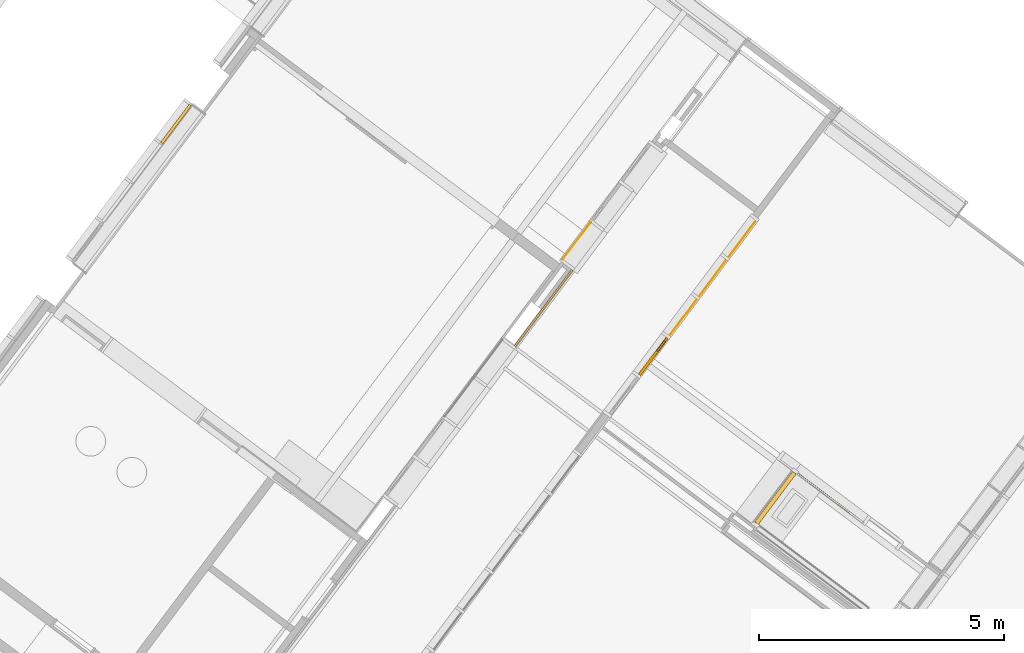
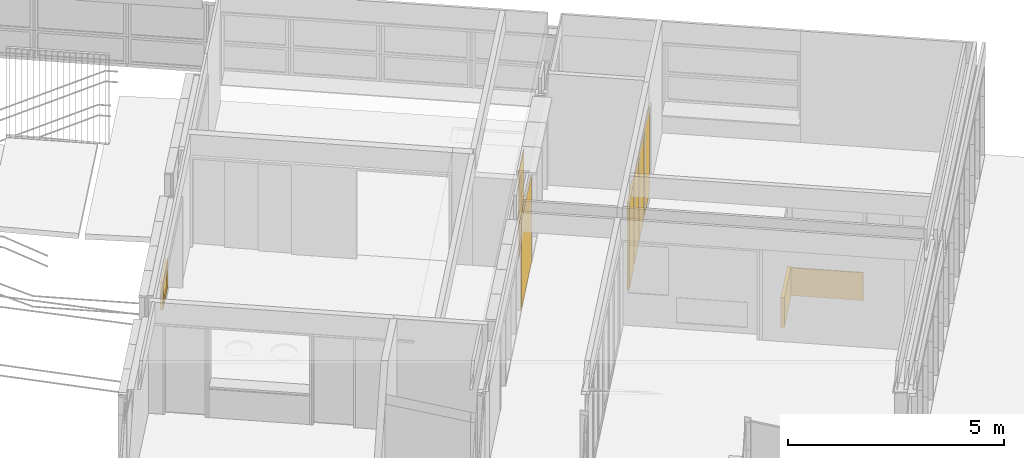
# One storey, part 170 of 243: 6 windows, 3 curtain walls, 6 elements without a shape of their own.
"""IFC2X3 building model written with IfcOpenShell, lengths in metres."""

from ifc_helpers import new_model, entity, si_unit, converted_unit, derived_unit, direction, frame, frame_2d, origin, origin_2d_with_axis, place, context, subcontext, project, spatial, rectangle, extrude, faceted_brep, source, transform, mapped, material, material_list, layer, layer_set, layer_usage, type_object, type_shapes, element, aggregate, save


model = new_model("IFC2X3")

# Units and contexts
model_context = context("Model", 3, precision=1e-05, world=origin(), true_north=direction((6.123031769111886e-17, 1.0)))
body_context = subcontext(model_context, "Body", "Model", "MODEL_VIEW")
ifc_project = project(units=[si_unit("LENGTHUNIT", "METRE"), si_unit("AREAUNIT", "SQUARE_METRE"), si_unit("VOLUMEUNIT", "CUBIC_METRE"), converted_unit("PLANEANGLEUNIT", "DEGREE", entity("IfcRatioMeasure", 0.017453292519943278), si_unit("PLANEANGLEUNIT", "RADIAN"), dimensions=[0, 0, 0, 0, 0, 0, 0]), si_unit("MASSUNIT", "GRAM", prefix="KILO"), derived_unit("MASSDENSITYUNIT", [(si_unit("MASSUNIT", "GRAM", prefix="KILO"), 1), (si_unit("LENGTHUNIT", "METRE"), -3)]), derived_unit("IONCONCENTRATIONUNIT", [(si_unit("MASSUNIT", "GRAM", prefix="KILO"), 1), (si_unit("LENGTHUNIT", "METRE"), -3)]), derived_unit("MOMENTOFINERTIAUNIT", [(si_unit("LENGTHUNIT", "METRE"), 4)]), si_unit("TIMEUNIT", "SECOND"), si_unit("FREQUENCYUNIT", "HERTZ"), si_unit("THERMODYNAMICTEMPERATUREUNIT", "DEGREE_CELSIUS"), derived_unit("THERMALTRANSMITTANCEUNIT", [(si_unit("MASSUNIT", "GRAM", prefix="KILO"), 1), (si_unit("THERMODYNAMICTEMPERATUREUNIT", "KELVIN"), -1), (si_unit("TIMEUNIT", "SECOND"), -3)]), derived_unit("THERMALCONDUCTANCEUNIT", [(si_unit("MASSUNIT", "GRAM", prefix="KILO"), 1), (si_unit("THERMODYNAMICTEMPERATUREUNIT", "KELVIN"), -1), (si_unit("TIMEUNIT", "SECOND"), -3), (si_unit("LENGTHUNIT", "METRE"), 1)]), derived_unit("VOLUMETRICFLOWRATEUNIT", [(si_unit("LENGTHUNIT", "METRE"), 3), (si_unit("TIMEUNIT", "SECOND"), -1)]), derived_unit("MASSFLOWRATEUNIT", [(si_unit("MASSUNIT", "GRAM", prefix="KILO"), 1), (si_unit("TIMEUNIT", "SECOND"), -1)]), derived_unit("ROTATIONALFREQUENCYUNIT", [(si_unit("TIMEUNIT", "SECOND"), -1)]), si_unit("ELECTRICCURRENTUNIT", "AMPERE"), si_unit("ELECTRICVOLTAGEUNIT", "VOLT"), si_unit("POWERUNIT", "WATT"), si_unit("FORCEUNIT", "NEWTON", prefix="KILO"), si_unit("ILLUMINANCEUNIT", "LUX"), si_unit("LUMINOUSFLUXUNIT", "LUMEN"), si_unit("LUMINOUSINTENSITYUNIT", "CANDELA"), derived_unit("USERDEFINED", [(si_unit("MASSUNIT", "GRAM", prefix="KILO"), -1), (si_unit("LENGTHUNIT", "METRE"), -2), (si_unit("TIMEUNIT", "SECOND"), 3), (si_unit("LUMINOUSFLUXUNIT", "LUMEN"), 1)]), derived_unit("USERDEFINED", [(si_unit("MASSUNIT", "GRAM", prefix="KILO"), 1), (si_unit("TIMEUNIT", "SECOND"), -3), (si_unit("LENGTHUNIT", "METRE"), 3), (si_unit("ELECTRICCURRENTUNIT", "AMPERE"), -2)]), derived_unit("SOUNDPOWERUNIT", [(si_unit("MASSUNIT", "GRAM", prefix="KILO"), 1), (si_unit("TIMEUNIT", "SECOND"), -3), (si_unit("LENGTHUNIT", "METRE"), 2)]), derived_unit("SOUNDPRESSUREUNIT", [(si_unit("MASSUNIT", "GRAM", prefix="KILO"), 1), (si_unit("LENGTHUNIT", "METRE"), -1), (si_unit("TIMEUNIT", "SECOND"), -2)]), derived_unit("LINEARVELOCITYUNIT", [(si_unit("LENGTHUNIT", "METRE"), 1), (si_unit("TIMEUNIT", "SECOND"), -1)]), si_unit("PRESSUREUNIT", "PASCAL"), derived_unit("USERDEFINED", [(si_unit("MASSUNIT", "GRAM", prefix="KILO"), 1), (si_unit("LENGTHUNIT", "METRE"), -2), (si_unit("TIMEUNIT", "SECOND"), -2)]), derived_unit("LINEARFORCEUNIT", [(si_unit("MASSUNIT", "GRAM", prefix="KILO"), 1), (si_unit("TIMEUNIT", "SECOND"), -2)]), derived_unit("PLANARFORCEUNIT", [(si_unit("MASSUNIT", "GRAM", prefix="KILO"), 1), (si_unit("LENGTHUNIT", "METRE"), -1), (si_unit("TIMEUNIT", "SECOND"), -2)]), derived_unit("SPECIFICHEATCAPACITYUNIT", [(si_unit("THERMODYNAMICTEMPERATUREUNIT", "KELVIN"), -1), (si_unit("LENGTHUNIT", "METRE"), 2), (si_unit("TIMEUNIT", "SECOND"), -2)]), derived_unit("HEATINGVALUEUNIT", [(si_unit("LENGTHUNIT", "METRE"), 2), (si_unit("TIMEUNIT", "SECOND"), -2)]), derived_unit("VAPORPERMEABILITYUNIT", [(si_unit("LENGTHUNIT", "METRE"), -1), (si_unit("TIMEUNIT", "SECOND"), 1)]), derived_unit("DYNAMICVISCOSITYUNIT", [(si_unit("MASSUNIT", "GRAM", prefix="KILO"), 1), (si_unit("TIMEUNIT", "SECOND"), -1), (si_unit("LENGTHUNIT", "METRE"), -1)]), derived_unit("THERMALEXPANSIONCOEFFICIENTUNIT", [(si_unit("THERMODYNAMICTEMPERATUREUNIT", "KELVIN"), -1)]), derived_unit("MODULUSOFELASTICITYUNIT", [(si_unit("MASSUNIT", "GRAM", prefix="KILO"), 1), (si_unit("LENGTHUNIT", "METRE"), -1), (si_unit("TIMEUNIT", "SECOND"), -2)]), derived_unit("ISOTHERMALMOISTURECAPACITYUNIT", [(si_unit("LENGTHUNIT", "METRE"), 3), (si_unit("MASSUNIT", "GRAM", prefix="KILO"), -1)]), derived_unit("MOISTUREDIFFUSIVITYUNIT", [(si_unit("TIMEUNIT", "SECOND"), -1), (si_unit("LENGTHUNIT", "METRE"), 2)])], contexts=[model_context])

# Site, building, storey
site_placement = place(None, frame((0.0, 0.0, 235.0), z_axis=(0.0, 0.0, 1.0), x_axis=(-0.7996477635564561, 0.6004693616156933, 0.0)))
site = spatial("IfcSite", under=ifc_project, at=site_placement, Name="Default", CompositionType="ELEMENT")
building_placement = place(site_placement, origin())
building = spatial("IfcBuilding", under=site, at=building_placement, CompositionType="ELEMENT")
storey_placement = place(building_placement, origin())
storey = spatial("IfcBuildingStorey", under=building, at=storey_placement, Name="P0- Escola", CompositionType="ELEMENT", Elevation=0.0)

# Curtain wall, window
curtain_wall_type_1 = type_object("IfcCurtainWallType", Name="Muro cortina:MC- INT- a4", PredefinedType="NOTDEFINED")
curtain_wall_1_placement = place(storey_placement, origin())
curtain_wall_1 = element("IfcCurtainWall", 1, at=curtain_wall_1_placement, inside=storey, type_object=curtain_wall_type_1, Name="Muro cortina:MC- INT- a4", ObjectType="Muro cortina:MC- INT- a4")
ifc_material_1 = material(Name="_Vidre")
window_style_1 = type_object("IfcWindowStyle", Name="MC- Fusta- vidre fix:MC- Fusta- vidre fix", ConstructionType="NOTDEFINED", OperationType="NOTDEFINED", ParameterTakesPrecedence=False, Sizeable=False, material=ifc_material_1)
shared_shape_1 = source(origin(), body_context, "Body", "SweptSolid", [
    extrude(rectangle(XDim=0.015999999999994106, YDim=0.9674999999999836, at=origin_2d_with_axis()), frame((0.0, 0.0, 0.0), z_axis=(0.0, 0.0, 1.0), x_axis=(0.0, -1.0, 0.0)), (0.0, 0.0, 1.0), 2.46),
])
type_shapes(window_style_1, [shared_shape_1])
window_1_placement = place(curtain_wall_1_placement, frame((15.955147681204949, -36.91644175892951, 0.045), z_axis=(0.0, 0.0, 1.0), x_axis=(0.0, 1.0, 0.0)))
window_1 = element("IfcWindow", 2, at=window_1_placement, type_object=window_style_1, material=ifc_material_1, Name="MC- Fusta- vidre fix:MC- Fusta- vidre fix", ObjectType="MC- Fusta- vidre fix:MC- Fusta- vidre fix", OverallHeight=2.46, OverallWidth=0.9674999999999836, context=body_context, shape_type="MappedRepresentation", body=[
    mapped(shared_shape_1, transform((0.0, 0.0, 0.0), scale=1.0)),
])
aggregate(curtain_wall_1, [window_1])

# Curtain wall, windows
curtain_wall_type_2 = type_object("IfcCurtainWallType", Name="Muro cortina:MC- INT- a3", PredefinedType="NOTDEFINED")
curtain_wall_2_placement = place(storey_placement, origin())
curtain_wall_2 = element("IfcCurtainWall", 3, at=curtain_wall_2_placement, inside=storey, type_object=curtain_wall_type_2, Name="Muro cortina:MC- INT- a3", ObjectType="Muro cortina:MC- INT- a3")
window_style_2 = type_object("IfcWindowStyle", Name="MC- Fusta- vidre fix:MC- Fusta- vidre fix", ConstructionType="NOTDEFINED", OperationType="NOTDEFINED", ParameterTakesPrecedence=False, Sizeable=False, material=ifc_material_1)
shared_shape_2 = source(origin(), body_context, "Body", "SweptSolid", [
    extrude(rectangle(XDim=0.9550000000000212, YDim=0.015999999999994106, at=origin_2d_with_axis()), frame((0.0, 0.0, 0.0), z_axis=(0.0, 0.0, 1.0), x_axis=(-1.0, 0.0, 0.0)), (0.0, 0.0, 1.0), 2.475),
])
type_shapes(window_style_2, [shared_shape_2])
window_2_placement = place(curtain_wall_2_placement, frame((13.279147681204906, -38.96269175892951, 0.045000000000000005), z_axis=(0.0, 0.0, 1.0), x_axis=(0.0, -1.0, 0.0)))
window_2 = element("IfcWindow", 4, at=window_2_placement, type_object=window_style_2, material=ifc_material_1, Name="MC- Fusta- vidre fix:MC- Fusta- vidre fix", ObjectType="MC- Fusta- vidre fix:MC- Fusta- vidre fix", OverallHeight=2.475, OverallWidth=0.9550000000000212, context=body_context, shape_type="MappedRepresentation", body=[
    mapped(shared_shape_2, transform((0.0, 0.0, 0.0), scale=1.0)),
])
window_style_3 = type_object("IfcWindowStyle", Name="MC- Fusta- vidre fix:MC- Fusta- vidre fix", ConstructionType="NOTDEFINED", OperationType="NOTDEFINED", ParameterTakesPrecedence=False, Sizeable=False, material=ifc_material_1)
shared_shape_3 = source(origin(), body_context, "Body", "SweptSolid", [
    extrude(rectangle(XDim=0.015999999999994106, YDim=0.9699999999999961, at=origin_2d_with_axis()), frame((0.0, 0.0, 0.0), z_axis=(0.0, 0.0, 1.0), x_axis=(0.0, -1.0, 0.0)), (0.0, 0.0, 1.0), 2.475),
])
type_shapes(window_style_3, [shared_shape_3])
window_3_placement = place(curtain_wall_2_placement, frame((13.279147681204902, -37.9701917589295, 0.045000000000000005), z_axis=(0.0, 0.0, 1.0), x_axis=(0.0, -1.0, 0.0)))
window_3 = element("IfcWindow", 5, at=window_3_placement, type_object=window_style_3, material=ifc_material_1, Name="MC- Fusta- vidre fix:MC- Fusta- vidre fix", ObjectType="MC- Fusta- vidre fix:MC- Fusta- vidre fix", OverallHeight=2.475, OverallWidth=0.9699999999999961, context=body_context, shape_type="MappedRepresentation", body=[
    mapped(shared_shape_3, transform((0.0, 0.0, 0.0), scale=1.0)),
])
window_4_placement = place(curtain_wall_2_placement, frame((13.279147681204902, -36.9701917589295, 0.045000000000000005), z_axis=(0.0, 0.0, 1.0), x_axis=(0.0, -1.0, 0.0)))
window_4 = element("IfcWindow", 6, at=window_4_placement, type_object=window_style_3, material=ifc_material_1, Name="MC- Fusta- vidre fix:MC- Fusta- vidre fix", ObjectType="MC- Fusta- vidre fix:MC- Fusta- vidre fix", OverallHeight=2.475, OverallWidth=0.9699999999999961, context=body_context, shape_type="MappedRepresentation", body=[
    mapped(shared_shape_3, transform((0.0, 0.0, 0.0), scale=1.0)),
])
ifc_material_2 = material(Name="_Fusta massisa- T1-  REV- PAV")
window_style_4 = type_object("IfcWindowStyle", Name="MC- Fusta- Finestra ventilacio interior:MC- Fusta- Finestra ventilacio interior", ConstructionType="NOTDEFINED", OperationType="NOTDEFINED", ParameterTakesPrecedence=False, Sizeable=False, material=ifc_material_2)
shared_shape_4 = source(origin(), body_context, "Body", "Brep", [
    faceted_brep([(0.3930000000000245, 0.025000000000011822, 2.382999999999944), (0.13200000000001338, 0.0250000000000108, 2.3829999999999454), (0.13200000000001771, 0.025000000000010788, 1.0449999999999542), (0.3930000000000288, 0.025000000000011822, 1.0449999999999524), (0.13200000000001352, -0.004999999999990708, 2.3829999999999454), (0.13200000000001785, -0.004999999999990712, 1.0449999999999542), (0.3930000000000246, -0.004999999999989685, 2.382999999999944), (0.393000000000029, -0.00499999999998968, 1.0449999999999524), (0.08700000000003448, 0.04000000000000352, 2.427999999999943), (0.08700000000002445, 0.04000000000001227, 1.0), (0.08700000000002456, 0.01000000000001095, 1.0), (0.0870000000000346, 0.01000000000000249, 2.427999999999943), (0.4380000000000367, 0.010000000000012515, 1.0), (0.4380000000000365, 0.04000000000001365, 1.0), (0.43800000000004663, 0.0400000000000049, 2.427999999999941), (0.4380000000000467, 0.010000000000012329, 2.428000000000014), (0.07200000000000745, 0.009999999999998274, 0.9850000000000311), (0.07200000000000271, 0.010000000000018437, 2.44300000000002), (0.4530000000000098, 0.010000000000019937, 2.4430000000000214), (0.4530000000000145, 0.009999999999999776, 0.9850000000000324), (0.07200000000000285, -0.019999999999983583, 2.443000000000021), (0.07200000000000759, -0.020000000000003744, 0.9850000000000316), (0.45300000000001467, -0.02000000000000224, 0.985000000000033), (0.4530000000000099, -0.019999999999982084, 2.443000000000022)], [[[0, 1, 2, 3]], [[1, 4, 5, 2]], [[4, 6, 7, 5]], [[3, 7, 6, 0]], [[8, 9, 10, 11]], [[12, 13, 14, 15]], [[15, 14, 8, 11]], [[8, 14, 13, 9]], [[0, 6, 4, 1]], [[2, 5, 7, 3]], [[9, 13, 12, 10]], [[11, 10, 12, 15], [16, 17, 18, 19]], [[20, 21, 22, 23]], [[20, 23, 18, 17]], [[16, 21, 20, 17]], [[18, 23, 22, 19]], [[16, 19, 22, 21]]], outer=[[True], [True], [True], [True], [True], [True], [True], [True], [True], [True], [True], [False, True], [True], [True], [True], [True], [True]]),
    faceted_brep([(0.45500000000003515, -0.019999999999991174, 0.9850000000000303), (0.07000000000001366, -0.019999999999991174, 0.9850000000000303), (0.07000000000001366, -0.019999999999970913, 2.4449999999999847), (0.45500000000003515, -0.01999999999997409, 2.444999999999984), (-0.46500000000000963, -0.019999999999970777, 2.4549999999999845), (-0.4650000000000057, -0.020000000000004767, 0.005000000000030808), (0.46500000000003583, -0.020000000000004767, 0.00499999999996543), (0.46500000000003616, -0.019999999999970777, 2.4549999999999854), (0.4650000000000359, -0.01599999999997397, 2.454999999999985), (0.4650000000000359, -0.01600000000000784, 0.00499999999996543), (-0.46500000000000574, -0.01600000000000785, 0.005000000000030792), (0.47000000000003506, -0.015999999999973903, 2.459999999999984), (-0.47000000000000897, -0.015999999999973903, 2.459999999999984), (-0.4700000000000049, -0.016000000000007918, 0.0), (0.47000000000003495, -0.016000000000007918, 0.0), (-0.46500000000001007, -0.01599999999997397, 2.455000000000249), (-0.46500000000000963, 0.03600000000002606, 2.454999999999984), (-0.4650000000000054, 0.03599999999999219, 0.005000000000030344), (0.4650000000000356, 0.03599999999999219, 0.00499999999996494), (0.46500000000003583, 0.03600000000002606, 2.454999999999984), (-0.47000000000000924, 0.036000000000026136, 2.459999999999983), (0.470000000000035, 0.036000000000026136, 2.459999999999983), (0.46999999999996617, 0.03599999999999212, 0.0), (-0.4700000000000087, 0.03599999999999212, 0.0), (-0.46500000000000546, 0.03999999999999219, 0.005000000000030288), (0.46500000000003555, 0.03999999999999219, 0.005000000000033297), (0.08500000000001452, 0.040000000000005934, 1.0), (0.4400000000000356, 0.04000000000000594, 1.0), (0.4400000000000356, 0.040000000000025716, 2.4299999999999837), (0.08500000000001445, 0.040000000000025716, 2.4299999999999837), (-0.46500000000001, 0.040000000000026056, 2.4550000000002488), (0.4650000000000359, 0.040000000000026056, 2.454999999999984), (0.45500000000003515, 0.010000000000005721, 0.9850000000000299), (0.4550000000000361, 0.010000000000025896, 2.4449999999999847), (0.08500000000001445, 0.0100000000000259, 2.444999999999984), (0.07000000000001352, 0.010000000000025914, 2.444999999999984), (0.07000000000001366, 0.010000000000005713, 0.9850000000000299), (0.08500000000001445, 0.010000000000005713, 0.9850000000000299), (0.4400000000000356, 0.01000000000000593, 1.0), (0.08500000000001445, 0.010000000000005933, 1.0), (0.08500000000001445, 0.010000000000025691, 2.4299999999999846), (0.4400000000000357, 0.010000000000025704, 2.429999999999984)], [[[0, 1, 2, 3], [4, 5, 6, 7]], [[8, 7, 6, 9]], [[5, 10, 9, 6]], [[11, 12, 13, 14], [10, 15, 8, 9]], [[16, 17, 18, 19], [20, 21, 22, 23]], [[17, 24, 25, 18]], [[26, 27, 28, 29], [24, 30, 31, 25]], [[32, 33, 34, 35, 36, 37], [38, 39, 40, 41]], [[26, 39, 38, 27]], [[39, 26, 29, 40]], [[41, 28, 27, 38]], [[3, 33, 32, 0]], [[1, 36, 35, 2]], [[36, 1, 0, 32, 37]], [[4, 15, 10, 5]], [[16, 30, 24, 17]], [[12, 20, 23, 13]], [[13, 23, 22, 14]], [[21, 11, 14, 22]], [[7, 8, 15, 4]], [[11, 21, 20, 12]], [[33, 3, 2, 35, 34]], [[28, 41, 40, 29]], [[19, 31, 30, 16]], [[31, 19, 18, 25]]], outer=[[False, True], [True], [True], [True, False], [False, True], [True], [False, True], [True, False], [True], [True], [True], [True], [True], [True], [True], [True], [True], [True], [True], [True], [True], [True], [True], [True], [True]]),
])
type_shapes(window_style_4, [shared_shape_4])
window_5_placement = place(curtain_wall_2_placement, frame((13.2791476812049, -35.9701917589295, 0.059999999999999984), z_axis=(0.0, 0.0, 1.0), x_axis=(0.0, -1.0, 0.0)))
window_5 = element("IfcWindow", 7, at=window_5_placement, type_object=window_style_4, material=ifc_material_2, Name="MC- Fusta- Finestra ventilacio interior:MC- Fusta- Finestra ventilacio interior", ObjectType="MC- Fusta- Finestra ventilacio interior:MC- Fusta- Finestra ventilacio interior", OverallHeight=2.460000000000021, OverallWidth=0.9400000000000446, context=body_context, shape_type="MappedRepresentation", body=[
    mapped(shared_shape_4, transform((0.0, 0.0, 0.0), scale=1.0)),
])
aggregate(curtain_wall_2, [window_2, window_3, window_4, window_5])

# Curtain walls
curtain_wall_type_3 = type_object("IfcCurtainWallType", Name="Muro cortina:MC- INT- a4- 5cm", PredefinedType="NOTDEFINED")
curtain_wall_3_placement = place(storey_placement, origin())
curtain_wall_3 = element("IfcCurtainWall", 8, at=curtain_wall_3_placement, inside=storey, type_object=curtain_wall_type_3, Name="Muro cortina:MC- INT- a4- 5cm", ObjectType="Muro cortina:MC- INT- a4- 5cm")
ifc_layer_1 = layer(ifc_material_2, 0.015)
ifc_material_3 = material(Name="_Genèric perfils, muntants, rastrells")
ifc_layer_2 = layer(ifc_material_3, 0.02)
ifc_layer_set_1 = layer_set([ifc_layer_1, ifc_layer_2], Name="Muro básico:REV- Fusta- T1- 3,5 cm")
ifc_layer_usage_1 = layer_usage(ifc_layer_set_1, "AXIS2", "POSITIVE", -0.0175)
curtain_wall_type_4 = type_object("IfcCurtainWallType", Name="Muro básico:REV- Fusta- T1- 3,5 cm", PredefinedType="NOTDEFINED", material=ifc_layer_set_1)
curtain_wall_4_placement = place(storey_placement, frame((15.670147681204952, -34.44269085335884, 0.0), z_axis=(0.0, 0.0, 1.0), x_axis=(0.0, -1.0, 0.0)))
curtain_wall_4 = element("IfcCurtainWall", 9, at=curtain_wall_4_placement, type_object=curtain_wall_type_4, material=ifc_layer_usage_1, Name="Muro básico:REV- Fusta- T1- 3,5 cm", ObjectType="Muro básico:REV- Fusta- T1- 3,5 cm", context=body_context, shape_type="SweptSolid", body=[
    extrude(rectangle(XDim=0.03500000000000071, YDim=1.9450009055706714, at=frame_2d((-1.0842021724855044e-15, 0.0), x_axis=(1.0, 0.0))), frame((0.9725004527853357, 0.0, 0.0), z_axis=(0.0, 0.0, 1.0), x_axis=(0.0, 1.0, 0.0)), (0.0, 0.0, 1.0), 2.5050000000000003),
])
aggregate(curtain_wall_3, [curtain_wall_4])

curtain_wall_type_5 = type_object("IfcCurtainWallType", Name="Muro cortina:MC- INT- k1", PredefinedType="NOTDEFINED")
curtain_wall_5_placement = place(storey_placement, origin())
curtain_wall_5 = element("IfcCurtainWall", 10, at=curtain_wall_5_placement, inside=storey, type_object=curtain_wall_type_5, Name="Muro cortina:MC- INT- k1", ObjectType="Muro cortina:MC- INT- k1")
ifc_layer_usage_2 = layer_usage(ifc_layer_set_1, "AXIS2", "NEGATIVE", 0.0175)
curtain_wall_6_placement = place(storey_placement, frame((9.570147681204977, -35.82719175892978, 0.0), z_axis=(0.0, 0.0, 1.0), x_axis=(-1.0, 0.0, 0.0)))
curtain_wall_6 = element("IfcCurtainWall", 11, at=curtain_wall_6_placement, type_object=curtain_wall_type_4, material=ifc_layer_usage_2, Name="Muro básico:REV- Fusta- T1- 3,5 cm", ObjectType="Muro básico:REV- Fusta- T1- 3,5 cm", context=body_context, shape_type="SweptSolid", body=[
    extrude(rectangle(XDim=0.035000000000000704, YDim=1.731000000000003, at=frame_2d((-2.1649348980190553e-15, -1.0547118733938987e-15), x_axis=(1.0, 0.0))), frame((0.8655000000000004, 0.0, 0.0), z_axis=(0.0, 0.0, 1.0), x_axis=(0.0, 1.0, 0.0)), (0.0, 0.0, 1.0), 0.7849999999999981),
])
aggregate(curtain_wall_5, [curtain_wall_6])

curtain_wall_type_6 = type_object("IfcCurtainWallType", Name="Muro cortina:MC- INT- k1", PredefinedType="NOTDEFINED")
curtain_wall_7_placement = place(storey_placement, origin())
curtain_wall_7 = element("IfcCurtainWall", 12, at=curtain_wall_7_placement, inside=storey, type_object=curtain_wall_type_6, Name="Muro cortina:MC- INT- k1", ObjectType="Muro cortina:MC- INT- k1")
ifc_material_4 = material(Name="_Ceràmica- ENV")
ifc_layer_3 = layer(ifc_material_4, 0.09)
ifc_layer_set_2 = layer_set([ifc_layer_3], Name="Muro básico:ENV- Ceràmic- 9 cm")
ifc_layer_usage_3 = layer_usage(ifc_layer_set_2, "AXIS2", "NEGATIVE", 0.045)
curtain_wall_type_7 = type_object("IfcCurtainWallType", Name="Muro básico:ENV- Ceràmic- 9 cm", PredefinedType="NOTDEFINED", material=ifc_layer_set_2)
curtain_wall_8_placement = place(storey_placement, frame((9.564147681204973, -35.80119175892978, 0.0), z_axis=(0.0, 0.0, 1.0), x_axis=(0.0, 1.0, 0.0)))
curtain_wall_8 = element("IfcCurtainWall", 13, at=curtain_wall_8_placement, type_object=curtain_wall_type_7, material=ifc_layer_usage_3, Name="Muro básico:ENV- Ceràmic- 9 cm", ObjectType="Muro básico:ENV- Ceràmic- 9 cm", context=body_context, shape_type="SweptSolid", body=[
    extrude(rectangle(XDim=0.09000000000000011, YDim=1.2910000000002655, at=frame_2d((-5.412337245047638e-16, 2.1649348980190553e-15), x_axis=(1.0, 0.0))), frame((0.6455000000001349, 0.0, 0.0), z_axis=(0.0, 0.0, 1.0), x_axis=(0.0, 1.0, 0.0)), (0.0, 0.0, 1.0), 0.8399999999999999),
])
aggregate(curtain_wall_7, [curtain_wall_8])

# Curtain wall, window
curtain_wall_type_8 = type_object("IfcCurtainWallType", Name="Muro cortina:MC- EXT- MC2", PredefinedType="NOTDEFINED")
curtain_wall_9_placement = place(storey_placement, origin())
curtain_wall_9 = element("IfcCurtainWall", 14, at=curtain_wall_9_placement, inside=storey, type_object=curtain_wall_type_8, Name="Muro cortina:MC- EXT- MC2", ObjectType="Muro cortina:MC- EXT- MC2")
ifc_material_5 = material(Name="_Alumini- T1- Perfil")
ifc_material_list = material_list([ifc_material_1, ifc_material_5])
window_style_5 = type_object("IfcWindowStyle", Name="MC- Alu- Conjunt vidre fix- 62x60 cm:MC- Alu- Conjunt vidre fix- 62x60 cm", ConstructionType="NOTDEFINED", OperationType="NOTDEFINED", ParameterTakesPrecedence=False, Sizeable=False, material=ifc_material_list)
shared_shape_5 = source(origin(), body_context, "Body", "Brep", [
    faceted_brep([(-0.43619328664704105, -0.007600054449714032, 0.048806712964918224), (0.43619328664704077, -0.007600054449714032, 0.048806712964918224), (0.43619328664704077, -0.03160022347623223, 0.048806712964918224), (-0.43619328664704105, -0.03160022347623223, 0.048806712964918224), (-0.43619328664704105, -0.007600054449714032, 0.7387000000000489), (0.43619328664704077, -0.007600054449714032, 0.7387000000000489), (0.43619328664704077, -0.03160022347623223, 0.7387000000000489), (-0.43619328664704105, -0.03160022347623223, 0.7387000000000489)], [[[0, 1, 2, 3]], [[4, 5, 1, 0]], [[5, 6, 2, 1]], [[6, 7, 3, 2]], [[7, 4, 0, 3]], [[4, 7, 6, 5]]]),
    faceted_brep([(-0.4849999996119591, -0.05999999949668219, 0.7877000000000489), (-0.4849999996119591, 0.0, 0.7877000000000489), (-0.4849999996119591, 0.0, 0.0), (-0.4849999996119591, -0.05999999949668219, 0.0), (-0.422193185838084, 0.0, 0.7248931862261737), (-0.4221931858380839, 0.0, 0.06280681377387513), (0.42219318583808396, 0.0, 0.06280681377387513), (0.42219318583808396, 0.0, 0.7248931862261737), (0.4849999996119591, 0.0, 0.7877000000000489), (0.4849999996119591, 0.0, 0.0), (0.4849999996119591, -0.05999999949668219, 0.0), (0.4849999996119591, -0.05999999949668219, 0.7877000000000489), (0.4221960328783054, -0.05999999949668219, 0.7248960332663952), (0.4221960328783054, -0.05999999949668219, 0.0628039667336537), (-0.4221960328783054, -0.05999999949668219, 0.0628039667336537), (-0.4221960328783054, -0.05999999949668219, 0.7248960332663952), (-0.4221960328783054, -0.03160022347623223, 0.7248960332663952), (-0.4221960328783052, -0.03160022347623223, 0.06280396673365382), (0.4221960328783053, -0.03160022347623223, 0.06280396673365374), (0.42219603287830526, -0.03160022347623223, 0.7248960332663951), (0.43619328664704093, -0.03160022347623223, 0.7388932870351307), (0.43619328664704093, -0.03160022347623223, 0.048806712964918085), (-0.43619328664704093, -0.03160022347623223, 0.04880671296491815), (-0.43619328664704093, -0.03160022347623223, 0.7388932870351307), (-0.43619328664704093, -0.007600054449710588, 0.7388932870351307), (-0.43619328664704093, -0.007600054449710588, 0.04880671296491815), (0.43619328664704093, -0.007600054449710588, 0.048806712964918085), (0.43619328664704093, -0.007600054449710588, 0.7388932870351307), (0.42219318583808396, -0.007600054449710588, 0.7248931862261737), (0.42219318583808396, -0.007600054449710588, 0.06280681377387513), (-0.42219318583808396, -0.007600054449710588, 0.06280681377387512), (-0.42219318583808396, -0.007600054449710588, 0.7248931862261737)], [[[0, 1, 2, 3]], [[4, 5, 6, 7], [8, 9, 2, 1]], [[3, 2, 9, 10]], [[0, 3, 10, 11], [12, 13, 14, 15]], [[16, 15, 14, 17]], [[17, 14, 13, 18]], [[16, 17, 18, 19], [20, 21, 22, 23]], [[24, 23, 22, 25]], [[25, 22, 21, 26]], [[24, 25, 26, 27], [28, 29, 30, 31]], [[4, 31, 30, 5]], [[5, 30, 29, 6]], [[10, 9, 8, 11]], [[18, 13, 12, 19]], [[26, 21, 20, 27]], [[6, 29, 28, 7]], [[11, 8, 1, 0]], [[19, 12, 15, 16]], [[27, 20, 23, 24]], [[7, 28, 31, 4]]], outer=[[True], [False, True], [True], [True, False], [True], [True], [False, True], [True], [True], [True, False], [True], [True], [True], [True], [True], [True], [True], [True], [True], [True]]),
])
type_shapes(window_style_5, [shared_shape_5])
window_6_placement = place(curtain_wall_9_placement, frame((23.945147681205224, -33.91519175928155, 0.03229999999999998), z_axis=(0.0, 0.0, 1.0), x_axis=(0.0, -1.0, 0.0)))
window_6 = element("IfcWindow", 15, at=window_6_placement, type_object=window_style_5, material=ifc_material_list, Name="MC- Alu- Conjunt vidre fix- 62x60 cm:MC- Alu- Conjunt vidre fix- 62x60 cm", ObjectType="MC- Alu- Conjunt vidre fix- 62x60 cm:MC- Alu- Conjunt vidre fix- 62x60 cm", OverallHeight=0.7877000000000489, OverallWidth=0.9699999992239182, context=body_context, shape_type="MappedRepresentation", body=[
    mapped(shared_shape_5, transform((0.0, 0.0, 0.0), scale=1.0)),
])
aggregate(curtain_wall_9, [window_6])

save(model, "model.ifc")
